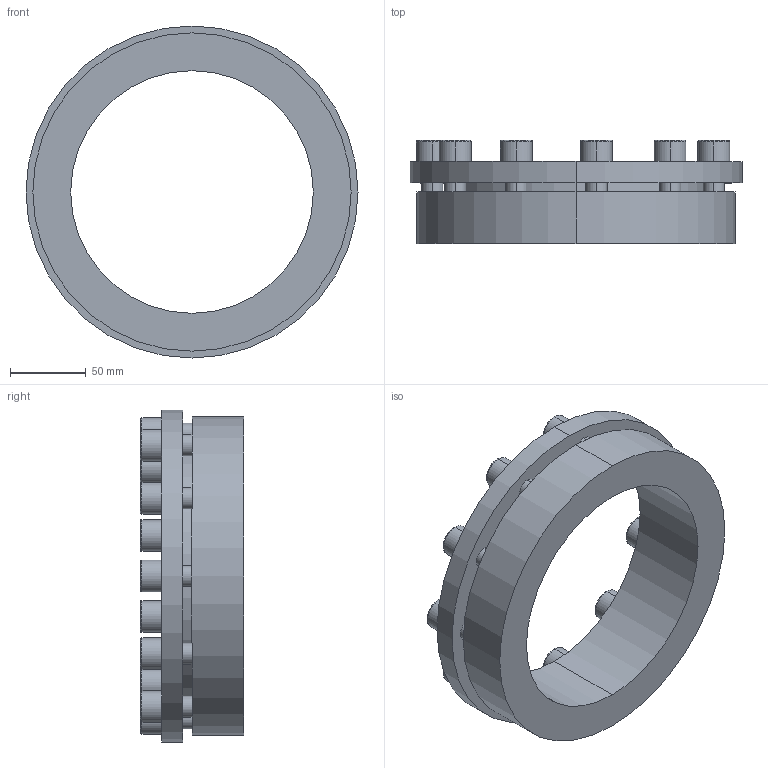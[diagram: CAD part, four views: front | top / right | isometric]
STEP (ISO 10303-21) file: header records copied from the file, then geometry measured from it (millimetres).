
FILE_DESCRIPTION (( 'STEP AP203' ), '1' );
FILE_NAME ('PL-H6 160-210.STEP', '2021-10-23T01:39:24', ( '' ), ( '' ), 'SwSTEP 2.0', 'SolidWorks 2018', '' );
FILE_SCHEMA (( 'CONFIG_CONTROL_DESIGN' ));
Length unit declared in the file: millimetre
Products named in the file (1): PL-H6 160-210
Bounding box: 219 x 68 x 219 mm (x, y, z)
Volume: 809182.9 mm3; surface area: 133972.1 mm2
Topology: 1 solids, 1 shells, 166 faces, 398 edges, 258 vertices
Faces by surface type: plane 92, cylinder 52, torus 22
Entity records: 4959 total; most frequent: DIRECTION 880, CARTESIAN_POINT 823, ORIENTED_EDGE 796, EDGE_CURVE 398, AXIS2_PLACEMENT_3D 315, VERTEX_POINT 258, LINE 250, VECTOR 250
